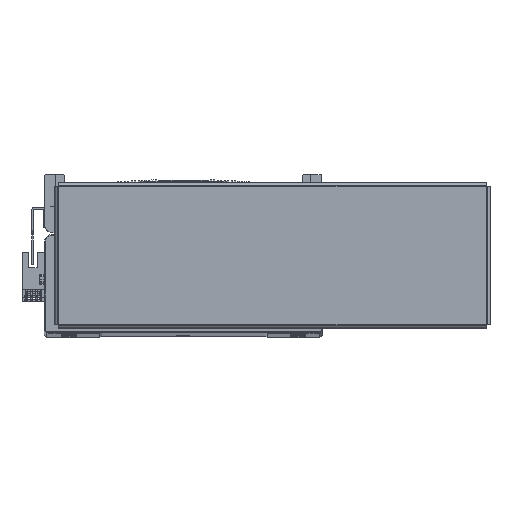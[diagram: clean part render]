
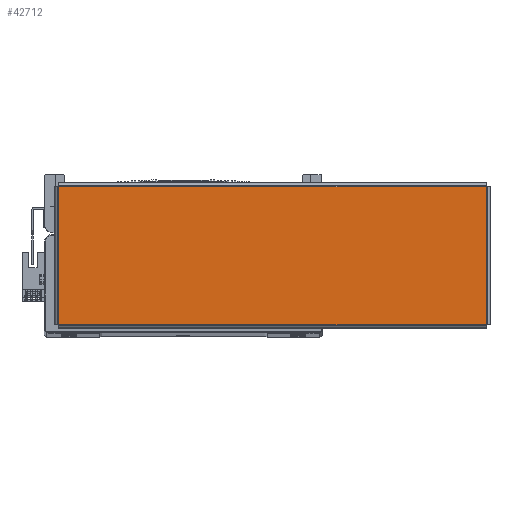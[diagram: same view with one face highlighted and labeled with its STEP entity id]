
A CAD part, top view. The second image highlights one B-rep face of the part: STEP entity #42712.
In plain terms, the highlighted planar face has unit normal (0, 0, 1) as drawn and (0, -1, 0) by its records, which use the part's own axes.
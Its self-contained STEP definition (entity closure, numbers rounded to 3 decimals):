
#11681 = AXIS2_PLACEMENT_3D ( 'NONE', #63806, #63760, #63781 ) ;
#12987 = VECTOR ( 'NONE', #59388, 1000. ) ;
#13007 = LINE ( 'NONE', #59523, #12987 ) ;
#13025 = VECTOR ( 'NONE', #59963, 1000. ) ;
#13032 = VECTOR ( 'NONE', #59886, 1000. ) ;
#13034 = LINE ( 'NONE', #59830, #13071 ) ;
#13060 = LINE ( 'NONE', #59957, #13025 ) ;
#13071 = VECTOR ( 'NONE', #59821, 1000. ) ;
#13073 = LINE ( 'NONE', #59908, #13032 ) ;
#27827 = VERTEX_POINT ( 'NONE', #42141 ) ;
#27844 = VERTEX_POINT ( 'NONE', #42170 ) ;
#27912 = VERTEX_POINT ( 'NONE', #42147 ) ;
#27915 = VERTEX_POINT ( 'NONE', #42093 ) ;
#42093 = CARTESIAN_POINT ( 'NONE',  ( -130.863, -1.5, 42.263 ) ) ;
#42141 = CARTESIAN_POINT ( 'NONE',  ( -130.863, -1.5, -42.263 ) ) ;
#42147 = CARTESIAN_POINT ( 'NONE',  ( 130.863, -1.5, -42.263 ) ) ;
#42170 = CARTESIAN_POINT ( 'NONE',  ( 130.863, -1.5, 42.263 ) ) ;
#42712 = ADVANCED_FACE ( 'NONE', ( #55304 ), #63784, .F. ) ;
#46284 = EDGE_LOOP ( 'NONE', ( #61708, #61862, #61891, #61822 ) ) ;
#55304 = FACE_OUTER_BOUND ( 'NONE', #46284, .T. ) ;
#59388 = DIRECTION ( 'NONE',  ( 0., 0., 1. ) ) ;
#59523 = CARTESIAN_POINT ( 'NONE',  ( 130.863, -1.5, -42.293 ) ) ;
#59821 = DIRECTION ( 'NONE',  ( 1., 0., 0. ) ) ;
#59830 = CARTESIAN_POINT ( 'NONE',  ( -130.893, -1.5, -42.263 ) ) ;
#59886 = DIRECTION ( 'NONE',  ( -1., 0., 0. ) ) ;
#59908 = CARTESIAN_POINT ( 'NONE',  ( 130.893, -1.5, 42.263 ) ) ;
#59957 = CARTESIAN_POINT ( 'NONE',  ( -130.863, -1.5, 42.293 ) ) ;
#59963 = DIRECTION ( 'NONE',  ( 0., 0., -1. ) ) ;
#61708 = ORIENTED_EDGE ( 'NONE', *, *, #69460, .T. ) ;
#61822 = ORIENTED_EDGE ( 'NONE', *, *, #69641, .T. ) ;
#61862 = ORIENTED_EDGE ( 'NONE', *, *, #69657, .T. ) ;
#61891 = ORIENTED_EDGE ( 'NONE', *, *, #69704, .T. ) ;
#63760 = DIRECTION ( 'NONE',  ( 0., 1., 0. ) ) ;
#63781 = DIRECTION ( 'NONE',  ( 0., 0., 1. ) ) ;
#63784 = PLANE ( 'NONE',  #11681 ) ;
#63806 = CARTESIAN_POINT ( 'NONE',  ( 0., -1.5, 0. ) ) ;
#69460 = EDGE_CURVE ( 'NONE', #27912, #27844, #13007, .T. ) ;
#69641 = EDGE_CURVE ( 'NONE', #27827, #27912, #13034, .T. ) ;
#69657 = EDGE_CURVE ( 'NONE', #27844, #27915, #13073, .T. ) ;
#69704 = EDGE_CURVE ( 'NONE', #27915, #27827, #13060, .T. ) ;
